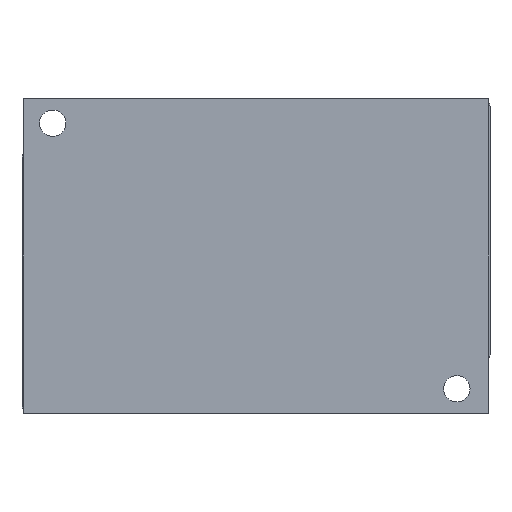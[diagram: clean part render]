
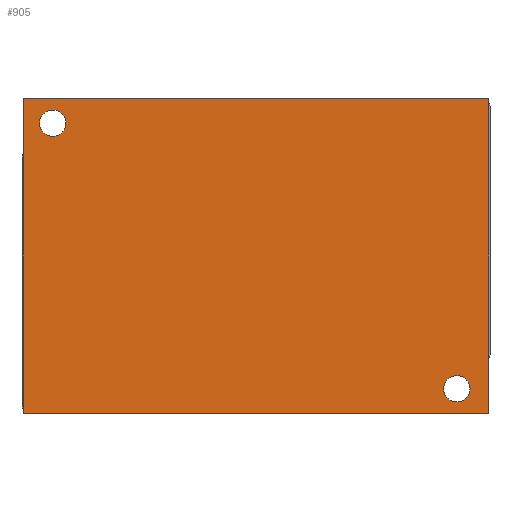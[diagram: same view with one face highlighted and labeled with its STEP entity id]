
A CAD part, front view. The second image highlights one B-rep face of the part: STEP entity #905.
In plain terms, the highlighted planar face has unit normal (0, -1, 0).
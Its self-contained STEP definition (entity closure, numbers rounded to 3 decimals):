
#126=DIRECTION('',(0.,0.,1.));
#127=VECTOR('',#126,40.5);
#128=CARTESIAN_POINT('',(-30.,-5.1,-20.25));
#129=LINE('',#128,#127);
#130=DIRECTION('',(1.,0.,0.));
#131=VECTOR('',#130,60.);
#132=CARTESIAN_POINT('',(-30.,-5.1,20.25));
#133=LINE('',#132,#131);
#134=DIRECTION('',(0.,0.,-1.));
#135=VECTOR('',#134,40.5);
#136=CARTESIAN_POINT('',(30.,-5.1,20.25));
#137=LINE('',#136,#135);
#138=DIRECTION('',(-1.,0.,0.));
#139=VECTOR('',#138,60.);
#140=CARTESIAN_POINT('',(30.,-5.1,-20.25));
#141=LINE('',#140,#139);
#142=CARTESIAN_POINT('',(-26.2,-5.1,17.1));
#143=DIRECTION('',(0.,1.,0.));
#144=DIRECTION('',(1.,0.,0.));
#145=AXIS2_PLACEMENT_3D('',#142,#143,#144);
#147=CARTESIAN_POINT('',(-26.2,-5.1,17.1));
#148=DIRECTION('',(0.,1.,0.));
#149=DIRECTION('',(-1.,0.,0.));
#150=AXIS2_PLACEMENT_3D('',#147,#148,#149);
#152=CARTESIAN_POINT('',(25.881,-5.1,-17.1));
#153=DIRECTION('',(0.,1.,0.));
#154=DIRECTION('',(1.,0.,0.));
#155=AXIS2_PLACEMENT_3D('',#152,#153,#154);
#157=CARTESIAN_POINT('',(25.881,-5.1,-17.1));
#158=DIRECTION('',(0.,1.,0.));
#159=DIRECTION('',(-1.,0.,0.));
#160=AXIS2_PLACEMENT_3D('',#157,#158,#159);
#562=CARTESIAN_POINT('',(-30.,-5.1,-20.25));
#563=CARTESIAN_POINT('',(-30.,-5.1,20.25));
#564=VERTEX_POINT('',#562);
#565=VERTEX_POINT('',#563);
#566=CARTESIAN_POINT('',(30.,-5.1,20.25));
#567=VERTEX_POINT('',#566);
#568=CARTESIAN_POINT('',(30.,-5.1,-20.25));
#569=VERTEX_POINT('',#568);
#730=CARTESIAN_POINT('',(-24.5,-5.1,17.1));
#731=CARTESIAN_POINT('',(-27.9,-5.1,17.1));
#732=VERTEX_POINT('',#730);
#733=VERTEX_POINT('',#731);
#734=CARTESIAN_POINT('',(27.581,-5.1,-17.1));
#735=CARTESIAN_POINT('',(24.181,-5.1,-17.1));
#736=VERTEX_POINT('',#734);
#737=VERTEX_POINT('',#735);
#880=CARTESIAN_POINT('',(0.,-5.1,0.));
#881=DIRECTION('',(0.,1.,0.));
#882=DIRECTION('',(1.,0.,0.));
#883=AXIS2_PLACEMENT_3D('',#880,#881,#882);
#884=PLANE('',#883);
#885=ORIENTED_EDGE('',*,*,#870,.T.);
#886=ORIENTED_EDGE('',*,*,#814,.T.);
#888=ORIENTED_EDGE('',*,*,#887,.T.);
#890=ORIENTED_EDGE('',*,*,#889,.T.);
#891=EDGE_LOOP('',(#885,#886,#888,#890));
#892=FACE_OUTER_BOUND('',#891,.F.);
#894=ORIENTED_EDGE('',*,*,#893,.F.);
#896=ORIENTED_EDGE('',*,*,#895,.F.);
#897=EDGE_LOOP('',(#894,#896));
#898=FACE_BOUND('',#897,.F.);
#900=ORIENTED_EDGE('',*,*,#899,.F.);
#902=ORIENTED_EDGE('',*,*,#901,.F.);
#903=EDGE_LOOP('',(#900,#902));
#904=FACE_BOUND('',#903,.F.);
#905=ADVANCED_FACE('',(#892,#898,#904),#884,.F.);
#146=CIRCLE('',#145,1.7);
#151=CIRCLE('',#150,1.7);
#156=CIRCLE('',#155,1.7);
#161=CIRCLE('',#160,1.7);
#814=EDGE_CURVE('',#565,#567,#133,.T.);
#870=EDGE_CURVE('',#564,#565,#129,.T.);
#887=EDGE_CURVE('',#567,#569,#137,.T.);
#889=EDGE_CURVE('',#569,#564,#141,.T.);
#893=EDGE_CURVE('',#732,#733,#146,.T.);
#895=EDGE_CURVE('',#733,#732,#151,.T.);
#899=EDGE_CURVE('',#736,#737,#156,.T.);
#901=EDGE_CURVE('',#737,#736,#161,.T.);
